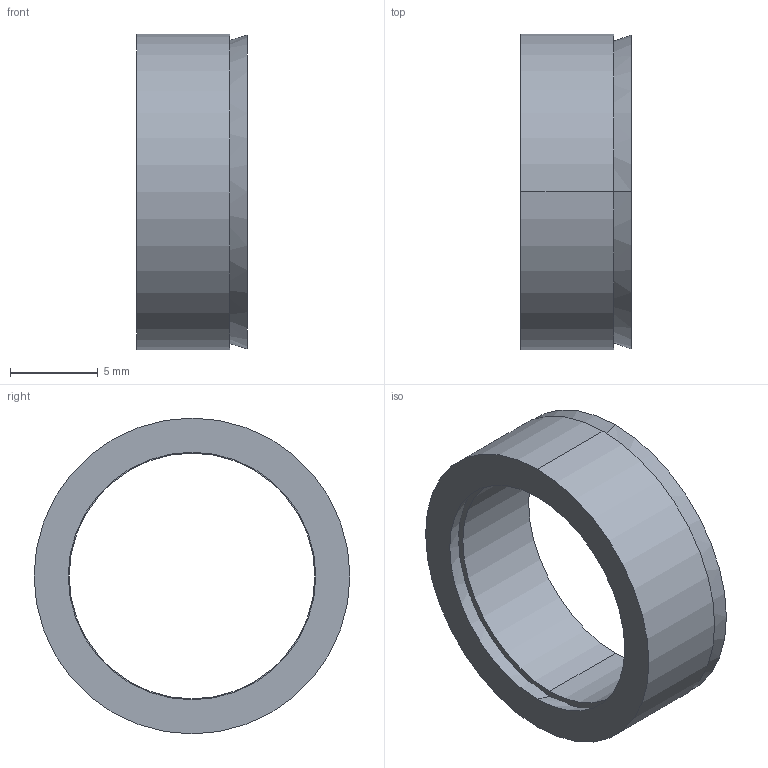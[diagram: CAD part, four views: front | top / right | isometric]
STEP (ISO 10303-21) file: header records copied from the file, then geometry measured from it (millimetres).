
FILE_DESCRIPTION (( 'STEP AP203' ), '1' );
FILE_NAME ('R-14-18.STEP', '2017-11-06T01:37:20', ( 'MYCOM' ), ( '' ), 'SwSTEP 2.0', 'SolidWorks 2015', '' );
FILE_SCHEMA (( 'CONFIG_CONTROL_DESIGN' ));
Length unit declared in the file: millimetre
Products named in the file (1): R-14-18
Bounding box: 6.3 x 18 x 18 mm (x, y, z)
Surface area: 1320.3 mm2 (no closed solid volume)
Topology: 0 solids, 2 shells, 12 faces, 24 edges, 16 vertices
Faces by surface type: cone 4, cylinder 4, plane 4
Entity records: 406 total; most frequent: DIRECTION 66, CARTESIAN_POINT 53, ORIENTED_EDGE 48, AXIS2_PLACEMENT_3D 29, EDGE_CURVE 24, EDGE_LOOP 16, VERTEX_POINT 16, CIRCLE 16
